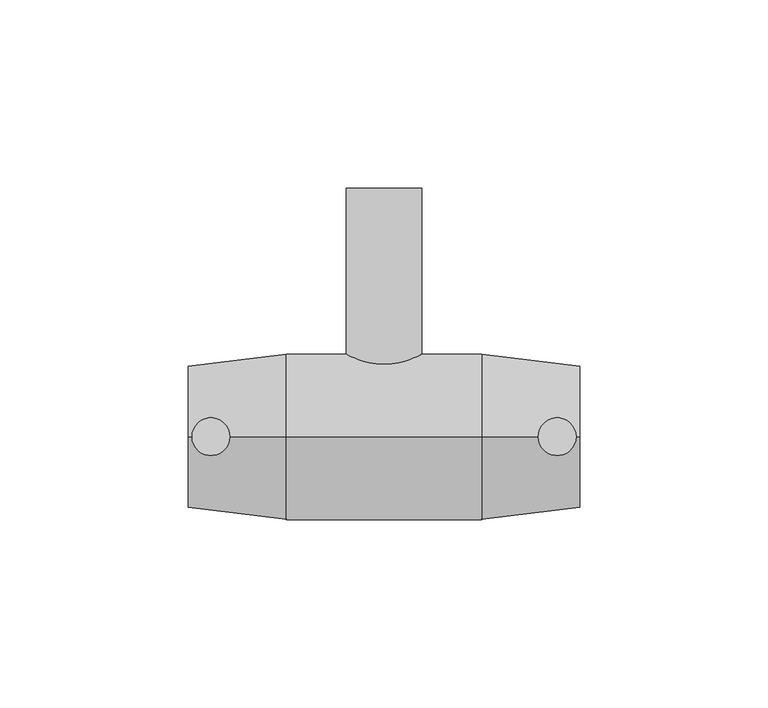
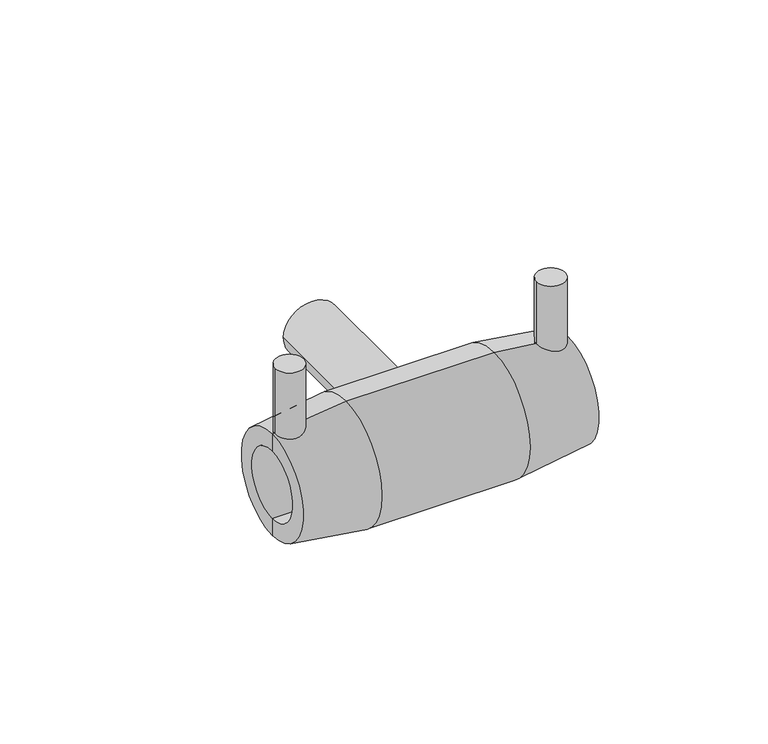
"""IFC4 building model written with IfcOpenShell, lengths in millimetres: pipe fitting geometry, Plumbing_Pipe-Fittings_Plasson_Reducing-Tee_491404 : Plumbing_Pipe-Fittings_Plasson_Reducing-Tee_491404."""

import ifcopenshell
import ifcopenshell.guid

model = None  # the IFC model being written
_history = None  # IfcOwnerHistory: only IFC2X3 demands one
_inside = {}  # id of a spatial element -> (the spatial element, [elements in it])
_under = {}  # id of a project, library or spatial element -> (it, [spatial elements below it])
_declared = {}  # id of a project -> (the project, [libraries it declares])
_typed = {}  # id of a type object -> (the type object, [elements of that type])
_made_of = {}  # id of a material, layer set ... -> (it, [elements and type objects made of it])


def new_model(schema):
    """Start an empty IFC model of exactly this schema.

    Asked for "IFC4X3", IfcOpenShell would pick the latest addendum, in which some entities
    have other attributes; the version numbers below select the first issue.
    IFC2X3 requires an IfcOwnerHistory on every rooted entity: one is made here for all.
    """
    global model, _history
    if schema == "IFC4X3":
        model = ifcopenshell.file(schema_version=(4, 3, 0, 0))
    else:
        model = ifcopenshell.file(schema=schema)
    _inside.clear()
    _under.clear()
    _declared.clear()
    _typed.clear()
    _made_of.clear()
    _history = None
    if model.schema == "IFC2X3":
        org = make("IfcOrganization", Name="unknown")
        user = make(
            "IfcPersonAndOrganization",
            ThePerson=make("IfcPerson", FamilyName="unknown"),
            TheOrganization=org,
        )
        app = make(
            "IfcApplication",
            ApplicationDeveloper=org,
            Version="unknown",
            ApplicationFullName="unknown",
            ApplicationIdentifier="unknown",
        )
        _history = make(
            "IfcOwnerHistory",
            OwningUser=user,
            OwningApplication=app,
            ChangeAction="ADDED",
            CreationDate=0,
        )
    return model


def make(cls, **values):
    """One entity of the class cls with the attributes given. An attribute that is None is left unset."""
    return model.create_entity(
        cls, **{name: value for name, value in values.items() if value is not None}
    )


def rooted(cls, **values):
    """An entity with a GlobalId (a new one), such as an element, a storey or a relation."""
    return make(cls, GlobalId=ifcopenshell.guid.new(), OwnerHistory=_history, **values)


def si_unit(unit_type, name, prefix=None):
    """IfcSIUnit, for example si_unit("LENGTHUNIT", "METRE", prefix="MILLI")."""
    return make("IfcSIUnit", UnitType=unit_type, Prefix=prefix, Name=name)


def assignment(units):
    """IfcUnitAssignment: the units of a project."""
    return None if units is None else make("IfcUnitAssignment", Units=units)


def point(xyz):
    """IfcCartesianPoint."""
    return None if xyz is None else make("IfcCartesianPoint", Coordinates=xyz)


def direction(xyz):
    """IfcDirection."""
    return None if xyz is None else make("IfcDirection", DirectionRatios=xyz)


def frame(location, z_axis=None, x_axis=None):
    """IfcAxis2Placement3D, a coordinate frame: its origin and axes. An axis left out is left unset."""
    return make(
        "IfcAxis2Placement3D",
        Location=point(location),
        Axis=direction(z_axis),
        RefDirection=direction(x_axis),
    )


def frame_2d(location, x_axis=None):
    """IfcAxis2Placement2D, a coordinate frame in the plane: its origin and x axis."""
    return make(
        "IfcAxis2Placement2D", Location=point(location), RefDirection=direction(x_axis)
    )


def origin():
    """The frame at (0, 0, 0) with its axes left unset."""
    return frame((0.0, 0.0, 0.0))


def place(relative_to, where):
    """IfcLocalPlacement: puts the frame where relative to a parent placement (None: the world)."""
    return make(
        "IfcLocalPlacement", PlacementRelTo=relative_to, RelativePlacement=where
    )


def context(
    kind, dimensions, precision=None, world=None, true_north=None, identifier=None
):
    """IfcGeometricRepresentationContext, for example the 3D "Model" context."""
    return make(
        "IfcGeometricRepresentationContext",
        ContextIdentifier=identifier,
        ContextType=kind,
        CoordinateSpaceDimension=dimensions,
        Precision=precision,
        WorldCoordinateSystem=world,
        TrueNorth=true_north,
    )


def project(units=None, contexts=None):
    """IfcProject with its units and contexts."""
    return rooted(
        "IfcProject",
        Name="project",
        RepresentationContexts=contexts,
        UnitsInContext=assignment(units),
    )


def spatial(cls, under=None, at=None, **own):
    """A site, building, storey or space (cls), placed at a placement, below another one or the project."""
    s = rooted(cls, ObjectPlacement=at, **own)
    if under is not None:
        _under.setdefault(under.id(), (under, []))[1].append(s)
    return s


def polyline(points):
    """IfcPolyline through the points."""
    return make("IfcPolyline", Points=[point(p) for p in points])


def circle_curve(where, radius):
    """IfcCircle in the frame where."""
    return make("IfcCircle", Position=where, Radius=radius)


def trimmed(basis, trim1, trim2, sense, master):
    """IfcTrimmedCurve: the piece of a basis curve between two trims."""
    return make(
        "IfcTrimmedCurve",
        BasisCurve=basis,
        Trim1=trim1,
        Trim2=trim2,
        SenseAgreement=sense,
        MasterRepresentation=master,
    )


def segment(curve, same_sense, transition):
    """IfcCompositeCurveSegment."""
    return make(
        "IfcCompositeCurveSegment",
        Transition=transition,
        SameSense=same_sense,
        ParentCurve=curve,
    )


def composite_curve(segments, self_intersect=None):
    """IfcCompositeCurve: segments joined end to end."""
    return make("IfcCompositeCurve", Segments=segments, SelfIntersect=self_intersect)


def outline(outer, holes=None, kind="AREA"):
    """IfcArbitraryClosedProfileDef: a profile drawn as a closed curve; with holes, ...WithVoids."""
    if holes is None:
        return make("IfcArbitraryClosedProfileDef", ProfileType=kind, OuterCurve=outer)
    return make(
        "IfcArbitraryProfileDefWithVoids",
        ProfileType=kind,
        OuterCurve=outer,
        InnerCurves=holes,
    )


def extrude(swept, where, along, depth):
    """IfcExtrudedAreaSolid: the profile swept, set in the frame where, extruded along a direction by depth."""
    return make(
        "IfcExtrudedAreaSolid",
        SweptArea=swept,
        Position=where,
        ExtrudedDirection=direction(along),
        Depth=depth,
    )


def shape(context_of_items, identifier, shape_type, items):
    """IfcShapeRepresentation: the items that make up one representation, for example the "Body"."""
    return make(
        "IfcShapeRepresentation",
        ContextOfItems=context_of_items,
        RepresentationIdentifier=identifier,
        RepresentationType=shape_type,
        Items=items,
    )


def source(mapping_origin, context_of_items, identifier, shape_type, items):
    """IfcRepresentationMap: a shape defined once, which mapped items show again and again."""
    return make(
        "IfcRepresentationMap",
        MappingOrigin=mapping_origin,
        MappedRepresentation=shape(context_of_items, identifier, shape_type, items),
    )


def transform(
    local_origin,
    x_axis=None,
    y_axis=None,
    z_axis=None,
    scale=None,
    scale2=None,
    scale3=None,
    uniform=True,
):
    """IfcCartesianTransformationOperator3D, or its non-uniform kind. x_axis, y_axis, z_axis: its Axis1, 2, 3."""
    if uniform:
        return make(
            "IfcCartesianTransformationOperator3D",
            Axis1=direction(x_axis),
            Axis2=direction(y_axis),
            LocalOrigin=point(local_origin),
            Scale=scale,
            Axis3=direction(z_axis),
        )
    return make(
        "IfcCartesianTransformationOperator3DnonUniform",
        Axis1=direction(x_axis),
        Axis2=direction(y_axis),
        LocalOrigin=point(local_origin),
        Scale=scale,
        Axis3=direction(z_axis),
        Scale2=scale2,
        Scale3=scale3,
    )


def mapped(mapping_source, mapping_target):
    """IfcMappedItem: shows the shape of a source again, moved by a transform."""
    return make(
        "IfcMappedItem", MappingSource=mapping_source, MappingTarget=mapping_target
    )


def made_of(thing, what):
    """Note that an element or type object is made of a material, layer set ...; save() writes the relation."""
    if what is not None:
        _made_of.setdefault(what.id(), (what, []))[1].append(thing)
    return thing


def element(
    cls,
    number,
    at=None,
    inside=None,
    cuts=None,
    type_object=None,
    material=None,
    context=None,
    identifier="Body",
    shape_type=None,
    held_by="IfcProductDefinitionShape",
    body=None,
    shapes=None,
    **own,
):
    """One element of the class cls, such as IfcWall. Its Tag is "e" and its number.

    at: its placement. inside: the storey or other place that contains it. cuts: it is an
    opening in that element (IfcRelVoidsElement). A single representation is given by context,
    identifier, shape_type and body (its items); several are given by shapes. held_by: the class
    of the entity that holds the representations. save() writes the other relations.
    """
    e = rooted(cls, Tag="e%d" % number, ObjectPlacement=at, **own)
    if body is not None:
        shapes = [shape(context, identifier, shape_type, body)]
    if shapes is not None:
        e.Representation = make(held_by, Representations=shapes)
    if inside is not None:
        _inside.setdefault(inside.id(), (inside, []))[1].append(e)
    if cuts is not None:
        rooted(
            "IfcRelVoidsElement", RelatingBuildingElement=cuts, RelatedOpeningElement=e
        )
    if type_object is not None:
        _typed.setdefault(type_object.id(), (type_object, []))[1].append(e)
    return made_of(e, material)


def aggregate(whole, parts):
    """IfcRelAggregates: a whole, such as a stair, and the parts it consists of."""
    return rooted("IfcRelAggregates", RelatingObject=whole, RelatedObjects=parts)


def save(model, path):
    """Write the relations noted so far, then the file.

    IfcRelAggregates (storeys below a building ...), IfcRelContainedInSpatialStructure (elements
    in a storey), IfcRelDefinesByType, IfcRelAssociatesMaterial and IfcRelDeclares: one each for
    every whole, place, type object, material and project.
    """
    for whole, parts in _under.values():
        aggregate(whole, parts)
    for where, things in _inside.values():
        rooted(
            "IfcRelContainedInSpatialStructure",
            RelatedElements=things,
            RelatingStructure=where,
        )
    for kind, things in _typed.values():
        rooted("IfcRelDefinesByType", RelatedObjects=things, RelatingType=kind)
    for what, things in _made_of.values():
        rooted("IfcRelAssociatesMaterial", RelatedObjects=things, RelatingMaterial=what)
    for by, libraries in _declared.values():
        rooted("IfcRelDeclares", RelatingContext=by, RelatedDefinitions=libraries)
    model.write(path)


def plane_surface(at):
    """IfcPlane: the flat surface through the origin of the frame at, square to its z axis."""
    return make("IfcPlane", Position=at)


def cylinder_surface(at, radius):
    """IfcCylindricalSurface: all points at the distance radius from the z axis of the frame at."""
    return make("IfcCylindricalSurface", Position=at, Radius=radius)


def revolved_surface(curve, axis_point, axis_direction):
    """IfcSurfaceOfRevolution: the curve turned about the line through axis_point along axis_direction."""
    return make(
        "IfcSurfaceOfRevolution",
        SweptCurve=make("IfcArbitraryOpenProfileDef", ProfileType="CURVE", Curve=curve),
        AxisPosition=make("IfcAxis1Placement", Location=point(axis_point), Axis=direction(axis_direction)),
    )


def advanced_brep(points, edges, surfaces, faces):
    """IfcAdvancedBrep: a solid bounded by faces that lie on surfaces and meet in shared edges.

    An edge is (start, end): straight between two places in points (the first is 0);
    or (start, end, curve); or (start, end, curve, False) where it runs against its curve.
    A face is (place in surfaces, loops), or (place, loops, False) where it looks against
    its surface's normal. A loop lists edges by number (the first is 1), with a minus sign
    where the edge is run from its end to its start. The first loop is the outer one.
    """
    corners = [point(p) for p in points]
    vertices = [make("IfcVertexPoint", VertexGeometry=c) for c in corners]
    made = []
    for start, end, *more in edges:
        made.append(
            make(
                "IfcEdgeCurve",
                EdgeStart=vertices[start],
                EdgeEnd=vertices[end],
                EdgeGeometry=more[0] if more else make("IfcPolyline", Points=[corners[start], corners[end]]),
                SameSense=more[1] if len(more) > 1 else True,
            )
        )
    hull = []
    for where, loops, *sense in faces:
        bounds = []
        for j, loop in enumerate(loops):
            ring = [make("IfcOrientedEdge", EdgeElement=made[abs(k) - 1], Orientation=k > 0) for k in loop]
            bounds.append(
                make(
                    "IfcFaceOuterBound" if j == 0 else "IfcFaceBound",
                    Bound=make("IfcEdgeLoop", EdgeList=ring),
                    Orientation=True,
                )
            )
        hull.append(make("IfcAdvancedFace", Bounds=bounds, FaceSurface=surfaces[where], SameSense=sense[0] if sense else True))
    return make("IfcAdvancedBrep", Outer=make("IfcClosedShell", CfsFaces=hull))


def pipe_fitting_6e503bb0(model_context):
    return source(origin(), model_context, "Body", "SolidModel", [
        advanced_brep(
        [(10.0, 0.0, 0.0), (-10.0, 0.0, 0.0), (-10.0, 66.0, 0.0), (10.0, 66.0, 0.0), (0.0, 0.0, 0.0), (0.0, 66.0, 0.0)],
        [
            (0, 1, circle_curve(frame((0.0, 0.0, 0.0), z_axis=(0.0, 1.0, 0.0), x_axis=(-1.0, 0.0, 0.0)), 10.0)),
            (1, 2),
            (2, 3, circle_curve(frame((0.0, 66.0, 0.0), z_axis=(0.0, -1.0, 0.0), x_axis=(-1.0, 0.0, 0.0)), 10.0)),
            (3, 0),
            (1, 0, circle_curve(frame((0.0, 0.0, 0.0), z_axis=(0.0, 1.0, 0.0), x_axis=(-1.0, 0.0, 0.0)), 10.0)),
            (3, 2, circle_curve(frame((0.0, 66.0, 0.0), z_axis=(0.0, -1.0, 0.0), x_axis=(-1.0, 0.0, 0.0)), 10.0)),
            (4, 1),
            (0, 4),
            (2, 5),
            (5, 3),
        ],
        [
            cylinder_surface(frame((0.0, 66.0, 0.0), z_axis=(0.0, -1.0, 0.0), x_axis=(-1.0, 0.0, 0.0)), 10.0),
            plane_surface(frame((0.0, 0.0, 0.0), z_axis=(0.0, -1.0, 0.0), x_axis=(-1.0, 0.0, 0.0))),
            plane_surface(frame((0.0, 66.0, 0.0), z_axis=(0.0, 1.0, 0.0), x_axis=(-1.0, 0.0, 0.0))),
        ],
        [
            (0, [[1, 2, 3, 4]]),
            (0, [[5, -4, 6, -2]]),
            (1, [[7, -1, 8]]),
            (1, [[-8, -5, -7]]),
            (2, [[-3, 9, 10]]),
            (2, [[-6, -10, -9]]),
        ],
    ),
        extrude(outline(composite_curve([segment(trimmed(circle_curve(frame_2d((-46.0, 0.0)), 5.0), [point((-51.0, 0.0))], [point((-41.0, 0.0))], False, "CARTESIAN"), True, "CONTINUOUS"), segment(trimmed(circle_curve(frame_2d((-46.0, 0.0)), 5.0), [point((-41.0, 0.0))], [point((-51.0, 0.0))], False, "CARTESIAN"), True, "CONTINUOUS")], self_intersect=False)), frame((0.0, 0.0, 17.25), z_axis=(0.0, 0.0, 1.0), x_axis=(1.0, 0.0, 0.0)), (0.0, 0.0, 1.0), 25.75),
        extrude(outline(composite_curve([segment(trimmed(circle_curve(frame_2d((46.0, 0.0)), 5.0), [point((41.0, 0.0))], [point((51.0, 0.0))], False, "CARTESIAN"), True, "CONTINUOUS"), segment(trimmed(circle_curve(frame_2d((46.0, 0.0)), 5.0), [point((51.0, 0.0))], [point((41.0, 0.0))], False, "CARTESIAN"), True, "CONTINUOUS")], self_intersect=False)), frame((0.0, 0.0, 17.25), z_axis=(0.0, 0.0, 1.0), x_axis=(1.0, 0.0, 0.0)), (0.0, 0.0, 1.0), 25.75),
        advanced_brep(
        [(-13.0, 0.0, -12.5), (-13.0, 0.0, 12.5), (-52.0, 0.0, 12.5), (-52.0, 0.0, -12.5), (52.0, 0.0, -18.8333333), (52.0, 0.0, 18.8333333), (52.0, 0.0, 12.5), (52.0, 0.0, -12.5), (-26.0, 0.0, -22.0), (-26.0, 0.0, 22.0), (26.0, 0.0, 22.0), (26.0, 0.0, -22.0), (-52.0, 0.0, 18.8333333), (-52.0, 0.0, -18.8333333), (-13.0, 0.0, 0.0), (13.0, 0.0, -12.5), (13.0, 0.0, 12.5), (13.0, 0.0, 0.0)],
        [
            (0, 1, circle_curve(frame((-13.0, 0.0, 0.0), z_axis=(1.0, 0.0, 0.0), x_axis=(0.0, 0.0, 1.0)), 12.5)),
            (1, 2),
            (2, 3, circle_curve(frame((-52.0, 0.0, 0.0), z_axis=(-1.0, 0.0, 0.0), x_axis=(0.0, 0.0, 1.0)), 12.5)),
            (3, 0),
            (1, 0, circle_curve(frame((-13.0, 0.0, 0.0), z_axis=(1.0, 0.0, 0.0), x_axis=(0.0, 0.0, 1.0)), 12.5)),
            (3, 2, circle_curve(frame((-52.0, 0.0, 0.0), z_axis=(-1.0, 0.0, 0.0), x_axis=(0.0, 0.0, 1.0)), 12.5)),
            (4, 5, circle_curve(frame((52.0, 0.0, 0.0), z_axis=(1.0, 0.0, 0.0), x_axis=(0.0, 0.0, 1.0)), 18.8333333)),
            (5, 6),
            (6, 7, circle_curve(frame((52.0, 0.0, 0.0), z_axis=(-1.0, 0.0, 0.0), x_axis=(0.0, 0.0, 1.0)), 12.5)),
            (7, 4),
            (5, 4, circle_curve(frame((52.0, 0.0, 0.0), z_axis=(1.0, 0.0, 0.0), x_axis=(0.0, 0.0, 1.0)), 18.8333333)),
            (7, 6, circle_curve(frame((52.0, 0.0, 0.0), z_axis=(-1.0, 0.0, 0.0), x_axis=(0.0, 0.0, 1.0)), 12.5)),
            (8, 9, circle_curve(frame((-26.0, 0.0, 0.0), z_axis=(1.0, 0.0, 0.0), x_axis=(0.0, 0.0, 1.0)), 22.0)),
            (9, 10),
            (10, 11, circle_curve(frame((26.0, 0.0, 0.0), z_axis=(-1.0, 0.0, 0.0), x_axis=(0.0, 0.0, 1.0)), 22.0)),
            (11, 8),
            (9, 8, circle_curve(frame((-26.0, 0.0, 0.0), z_axis=(1.0, 0.0, 0.0), x_axis=(0.0, 0.0, 1.0)), 22.0)),
            (11, 10, circle_curve(frame((26.0, 0.0, 0.0), z_axis=(-1.0, 0.0, 0.0), x_axis=(0.0, 0.0, 1.0)), 22.0)),
            (2, 12),
            (12, 13, circle_curve(frame((-52.0, 0.0, 0.0), z_axis=(-1.0, 0.0, 0.0), x_axis=(0.0, 0.0, 1.0)), 18.8333333)),
            (13, 3),
            (13, 12, circle_curve(frame((-52.0, 0.0, 0.0), z_axis=(-1.0, 0.0, 0.0), x_axis=(0.0, 0.0, 1.0)), 18.8333333)),
            (10, 5),
            (4, 11),
            (12, 9),
            (8, 13),
            (14, 1),
            (0, 14),
            (15, 16, circle_curve(frame((13.0, 0.0, 0.0), z_axis=(1.0, 0.0, 0.0), x_axis=(0.0, 0.0, 1.0)), 12.5)),
            (16, 17),
            (17, 15),
            (16, 15, circle_curve(frame((13.0, 0.0, 0.0), z_axis=(1.0, 0.0, 0.0), x_axis=(0.0, 0.0, 1.0)), 12.5)),
            (6, 16),
            (15, 7),
        ],
        [
            revolved_surface(polyline([(-52.0, 0.0, 12.5), (-13.0, 0.0, 12.5)]), (-52.0, 0.0, 0.0), (-1.0, 0.0, 0.0)),
            plane_surface(frame((52.0, 0.0, 0.0), z_axis=(1.0, 0.0, 0.0), x_axis=(0.0, 0.0, 1.0))),
            cylinder_surface(frame((-52.0, 0.0, 0.0), z_axis=(-1.0, 0.0, 0.0), x_axis=(0.0, 0.0, 1.0)), 22.0),
            plane_surface(frame((-52.0, 0.0, 0.0), z_axis=(-1.0, 0.0, 0.0), x_axis=(0.0, 0.0, 1.0))),
            revolved_surface(polyline([(52.0, 0.0, 18.8333333), (26.0, 0.0, 22.0)]), (-52.0, 0.0, 0.0), (-1.0, 0.0, 0.0)),
            revolved_surface(polyline([(-26.0, 0.0, 22.0), (-52.0, 0.0, 18.8333333)]), (-52.0, 0.0, 0.0), (-1.0, 0.0, 0.0)),
            plane_surface(frame((-13.0, 0.0, 0.0), z_axis=(-1.0, 0.0, 0.0), x_axis=(0.0, 0.0, 1.0))),
            plane_surface(frame((13.0, 0.0, 0.0), z_axis=(1.0, 0.0, 0.0), x_axis=(0.0, 0.0, 1.0))),
            revolved_surface(polyline([(13.0, 0.0, 12.5), (52.0, 0.0, 12.5)]), (-52.0, 0.0, 0.0), (-1.0, 0.0, 0.0)),
        ],
        [
            (0, [[1, 2, 3, 4]]),
            (0, [[5, -4, 6, -2]]),
            (1, [[7, 8, 9, 10]]),
            (1, [[11, -10, 12, -8]]),
            (2, [[13, 14, 15, 16]]),
            (2, [[17, -16, 18, -14]]),
            (3, [[-3, 19, 20, 21]]),
            (3, [[-6, -21, 22, -19]]),
            (4, [[-15, 23, -7, 24]]),
            (4, [[-18, -24, -11, -23]]),
            (5, [[-20, 25, -13, 26]]),
            (5, [[-22, -26, -17, -25]]),
            (6, [[27, -1, 28]]),
            (6, [[-28, -5, -27]]),
            (7, [[29, 30, 31]]),
            (7, [[32, -31, -30]]),
            (8, [[-9, 33, -29, 34]]),
            (8, [[-12, -34, -32, -33]]),
        ],
    ),
    ])


if __name__ == "__main__":
    model = new_model("IFC4")
    model_context = context("Model", 3, world=origin())
    ifc_project = project(units=[si_unit("LENGTHUNIT", "METRE", prefix="MILLI")], contexts=[model_context])
    site = spatial("IfcSite", under=ifc_project)
    building = spatial("IfcBuilding", under=site)
    placement = place(None, origin())
    pipe_fitting_shape = pipe_fitting_6e503bb0(model_context)
    element("IfcPipeFitting", 1, ObjectType="Plumbing_Pipe-Fittings_Plasson_Reducing-Tee_491404 : Plumbing_Pipe-Fittings_Plasson_Reducing-Tee_491404", at=placement, inside=building, context=model_context, shape_type="MappedRepresentation", body=[
        mapped(pipe_fitting_shape, transform((0.0, 0.0, 0.0), x_axis=(1.0, 0.0, 0.0), y_axis=(0.0, 1.0, 0.0), z_axis=(0.0, 0.0, 1.0))),
    ])
    save(model, "model.ifc")
